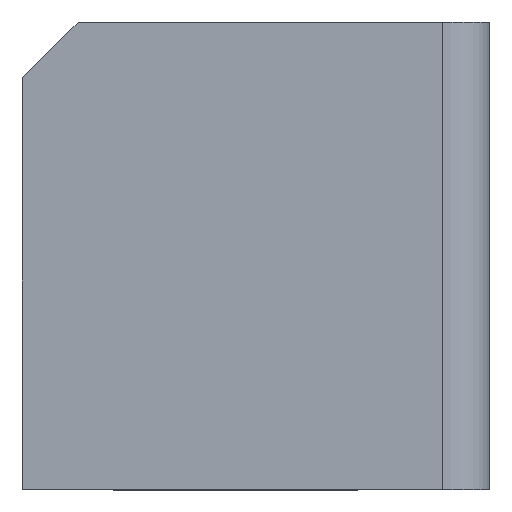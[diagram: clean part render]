
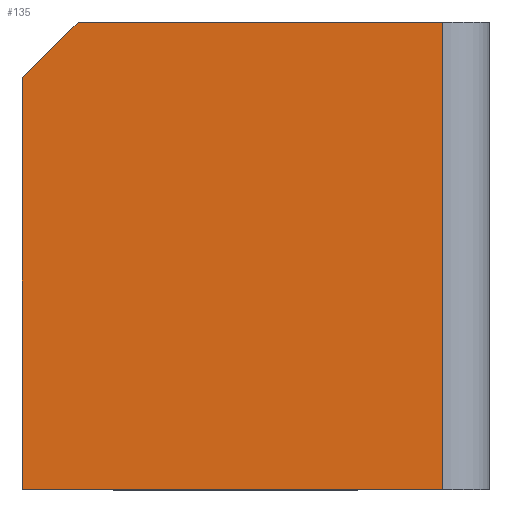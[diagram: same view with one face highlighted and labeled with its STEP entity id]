
A CAD part, top view. The second image highlights one B-rep face of the part: STEP entity #135.
In plain terms, the highlighted planar face has unit normal (0, 0, 1).
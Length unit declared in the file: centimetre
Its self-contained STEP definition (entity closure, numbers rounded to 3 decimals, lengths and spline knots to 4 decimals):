
#1 = CARTESIAN_POINT ( 'NONE',  ( 0., 1000., 1000. ) ) ;
#8 = CARTESIAN_POINT ( 'NONE',  ( 0., 0., 1000. ) ) ;
#16 = LINE ( 'NONE', #223, #354 ) ;
#24 = CARTESIAN_POINT ( 'NONE',  ( 0., 1000., 1000. ) ) ;
#51 = VERTEX_POINT ( 'NONE', #349 ) ;
#62 = ORIENTED_EDGE ( 'NONE', *, *, #787, .T. ) ;
#71 = CARTESIAN_POINT ( 'NONE',  ( 0., 880.8123, 1000. ) ) ;
#98 = VECTOR ( 'NONE', #641, 100. ) ;
#110 = VECTOR ( 'NONE', #190, 100. ) ;
#115 = EDGE_CURVE ( 'NONE', #138, #189, #762, .T. ) ;
#135 = ADVANCED_FACE ( 'NONE', ( #636 ), #483, .T. ) ;
#138 = VERTEX_POINT ( 'NONE', #71 ) ;
#189 = VERTEX_POINT ( 'NONE', #789 ) ;
#190 = DIRECTION ( 'NONE',  ( 1., 0., 0. ) ) ;
#213 = EDGE_CURVE ( 'NONE', #351, #754, #232, .T. ) ;
#223 = CARTESIAN_POINT ( 'NONE',  ( 899.3486, 1000., 1000. ) ) ;
#232 = LINE ( 'NONE', #24, #588 ) ;
#251 = CARTESIAN_POINT ( 'NONE',  ( 899.3486, 1000., 1000. ) ) ;
#279 = DIRECTION ( 'NONE',  ( 0., -1., 0. ) ) ;
#281 = ORIENTED_EDGE ( 'NONE', *, *, #808, .T. ) ;
#295 = CARTESIAN_POINT ( 'NONE',  ( -440.4062, 440.4062, 1000. ) ) ;
#303 = DIRECTION ( 'NONE',  ( -1., 0., 0. ) ) ;
#349 = CARTESIAN_POINT ( 'NONE',  ( 899.3486, 0., 1000. ) ) ;
#351 = VERTEX_POINT ( 'NONE', #251 ) ;
#354 = VECTOR ( 'NONE', #713, 100. ) ;
#372 = CARTESIAN_POINT ( 'NONE',  ( 119.1877, 1000., 1000. ) ) ;
#416 = DIRECTION ( 'NONE',  ( 0., 0., 1. ) ) ;
#482 = EDGE_CURVE ( 'NONE', #189, #51, #604, .T. ) ;
#483 = PLANE ( 'NONE',  #490 ) ;
#490 = AXIS2_PLACEMENT_3D ( 'NONE', #8, #416, #847 ) ;
#574 = VECTOR ( 'NONE', #279, 100. ) ;
#588 = VECTOR ( 'NONE', #303, 100. ) ;
#604 = LINE ( 'NONE', #879, #110 ) ;
#634 = LINE ( 'NONE', #295, #98 ) ;
#636 = FACE_OUTER_BOUND ( 'NONE', #638, .T. ) ;
#638 = EDGE_LOOP ( 'NONE', ( #816, #62, #836, #691, #281 ) ) ;
#641 = DIRECTION ( 'NONE',  ( -0.707, -0.707, 0. ) ) ;
#691 = ORIENTED_EDGE ( 'NONE', *, *, #482, .T. ) ;
#713 = DIRECTION ( 'NONE',  ( 0., 1., 0. ) ) ;
#754 = VERTEX_POINT ( 'NONE', #372 ) ;
#762 = LINE ( 'NONE', #1, #574 ) ;
#787 = EDGE_CURVE ( 'NONE', #754, #138, #634, .T. ) ;
#789 = CARTESIAN_POINT ( 'NONE',  ( 0., 0., 1000. ) ) ;
#808 = EDGE_CURVE ( 'NONE', #51, #351, #16, .T. ) ;
#816 = ORIENTED_EDGE ( 'NONE', *, *, #213, .T. ) ;
#836 = ORIENTED_EDGE ( 'NONE', *, *, #115, .T. ) ;
#847 = DIRECTION ( 'NONE',  ( 1., 0., 0. ) ) ;
#879 = CARTESIAN_POINT ( 'NONE',  ( 0., 0., 1000. ) ) ;
